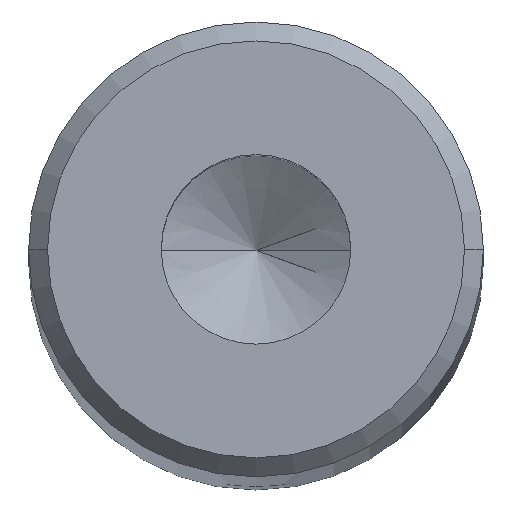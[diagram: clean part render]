
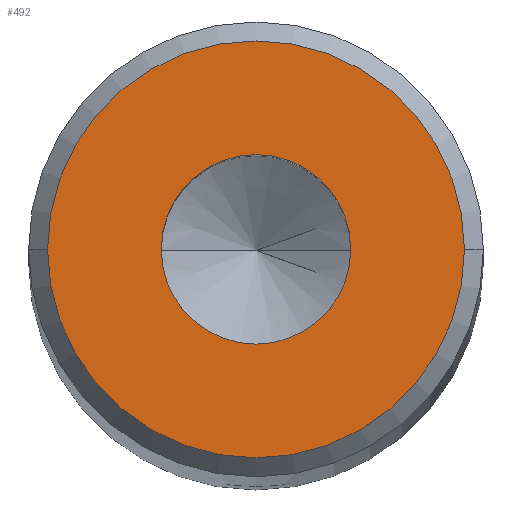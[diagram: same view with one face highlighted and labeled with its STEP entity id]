
A CAD part, top view. The second image highlights one B-rep face of the part: STEP entity #492.
In plain terms, the highlighted planar face has unit normal (0, 0, 1).
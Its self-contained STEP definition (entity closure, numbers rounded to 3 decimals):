
#3 = AXIS2_PLACEMENT_3D ( 'NONE', #306, #350, #66 ) ;
#11 = EDGE_CURVE ( 'NONE', #124, #465, #528, .T. ) ;
#16 = ORIENTED_EDGE ( 'NONE', *, *, #174, .T. ) ;
#60 = DIRECTION ( 'NONE',  ( 1., 0., 0. ) ) ;
#63 = CARTESIAN_POINT ( 'NONE',  ( 0., 0., 200. ) ) ;
#66 = DIRECTION ( 'NONE',  ( 1., 0., 0. ) ) ;
#110 = DIRECTION ( 'NONE',  ( 0., 0., 1. ) ) ;
#114 = DIRECTION ( 'NONE',  ( 1., 0., 0. ) ) ;
#116 = ORIENTED_EDGE ( 'NONE', *, *, #548, .T. ) ;
#124 = VERTEX_POINT ( 'NONE', #125 ) ;
#125 = CARTESIAN_POINT ( 'NONE',  ( 2.5, 0., 200. ) ) ;
#147 = AXIS2_PLACEMENT_3D ( 'NONE', #531, #400, #313 ) ;
#174 = EDGE_CURVE ( 'NONE', #346, #434, #377, .T. ) ;
#182 = EDGE_LOOP ( 'NONE', ( #16, #116 ) ) ;
#193 = CARTESIAN_POINT ( 'NONE',  ( 5.5, 0., 200. ) ) ;
#205 = CARTESIAN_POINT ( 'NONE',  ( 0., 0., 200. ) ) ;
#206 = PLANE ( 'NONE',  #424 ) ;
#210 = ORIENTED_EDGE ( 'NONE', *, *, #527, .F. ) ;
#226 = CARTESIAN_POINT ( 'NONE',  ( -5.5, 0., 200. ) ) ;
#248 = CIRCLE ( 'NONE', #360, 5.5 ) ;
#260 = AXIS2_PLACEMENT_3D ( 'NONE', #348, #344, #521 ) ;
#306 = CARTESIAN_POINT ( 'NONE',  ( 0., 0., 200. ) ) ;
#313 = DIRECTION ( 'NONE',  ( 1., 0., 0. ) ) ;
#319 = EDGE_LOOP ( 'NONE', ( #433, #210 ) ) ;
#327 = CIRCLE ( 'NONE', #260, 2.5 ) ;
#344 = DIRECTION ( 'NONE',  ( 0., 0., 1. ) ) ;
#346 = VERTEX_POINT ( 'NONE', #226 ) ;
#348 = CARTESIAN_POINT ( 'NONE',  ( 0., 0., 200. ) ) ;
#350 = DIRECTION ( 'NONE',  ( 0., 0., 1. ) ) ;
#360 = AXIS2_PLACEMENT_3D ( 'NONE', #205, #110, #114 ) ;
#377 = CIRCLE ( 'NONE', #147, 5.5 ) ;
#400 = DIRECTION ( 'NONE',  ( 0., 0., 1. ) ) ;
#424 = AXIS2_PLACEMENT_3D ( 'NONE', #63, #472, #60 ) ;
#433 = ORIENTED_EDGE ( 'NONE', *, *, #11, .F. ) ;
#434 = VERTEX_POINT ( 'NONE', #193 ) ;
#462 = CARTESIAN_POINT ( 'NONE',  ( -2.5, 0., 200. ) ) ;
#465 = VERTEX_POINT ( 'NONE', #462 ) ;
#472 = DIRECTION ( 'NONE',  ( 0., 0., 1. ) ) ;
#492 = ADVANCED_FACE ( 'NONE', ( #571, #500 ), #206, .T. ) ;
#500 = FACE_OUTER_BOUND ( 'NONE', #182, .T. ) ;
#521 = DIRECTION ( 'NONE',  ( 1., 0., 0. ) ) ;
#527 = EDGE_CURVE ( 'NONE', #465, #124, #327, .T. ) ;
#528 = CIRCLE ( 'NONE', #3, 2.5 ) ;
#531 = CARTESIAN_POINT ( 'NONE',  ( 0., 0., 200. ) ) ;
#548 = EDGE_CURVE ( 'NONE', #434, #346, #248, .T. ) ;
#571 = FACE_BOUND ( 'NONE', #319, .T. ) ;
